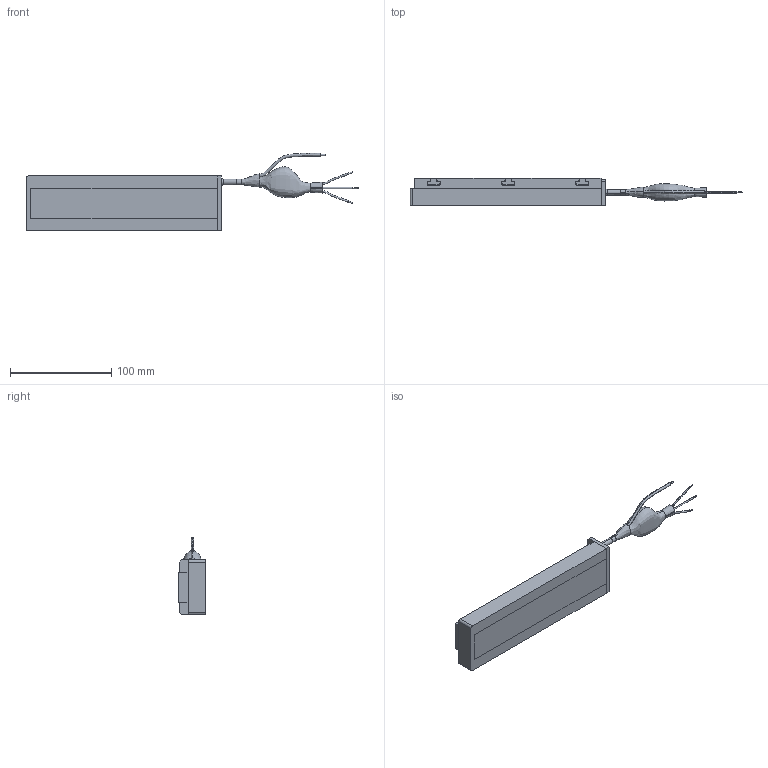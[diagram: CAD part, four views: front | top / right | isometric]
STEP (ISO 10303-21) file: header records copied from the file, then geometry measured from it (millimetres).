
FILE_DESCRIPTION (( 'STEP AP214' ), '1' );
FILE_NAME ('PIX200-027-030.STEP', '2016-05-10T03:11:37', ( '' ), ( '' ), 'SwSTEP 2.0', 'SolidWorks 2015', '' );
FILE_SCHEMA (( 'AUTOMOTIVE_DESIGN' ));
Length unit declared in the file: millimetre
Products named in the file (7): FERRITE CORE (FC2); CBL_MTR_PWR_SS_4C2C_SA (#3620-1); 001S200-027-030-003_CUSTOMER; 001S200-027-030-004; 001S200-040-030-0000-003_CUSTOMER; 001S200-027-0000-001_CUSTOMER_30; PIX200-027-030
Assembly tree (8 placements, depth 2):
  PIX200-027-030
    001S200-027-0000-001_CUSTOMER_30
    001S200-040-030-0000-003_CUSTOMER  x3
    001S200-027-030-004
    001S200-027-030-003_CUSTOMER
    CBL_MTR_PWR_SS_4C2C_SA (#3620-1)
    FERRITE CORE (FC2)
Bounding box: 328 x 26.9 x 76.34 mm (x, y, z)
Volume: 343266.6 mm3; surface area: 66439.2 mm2
Topology: 8 solids, 8 shells, 200 faces, 497 edges, 321 vertices
Faces by surface type: plane 123, cylinder 38, cone 19, torus 10, bspline 10
Entity records: 7837 total; most frequent: CARTESIAN_POINT 3177, DIRECTION 811, ORIENTED_EDGE 792, EDGE_CURVE 396, AXIS2_PLACEMENT_3D 277, VERTEX_POINT 257, LINE 257, VECTOR 257
